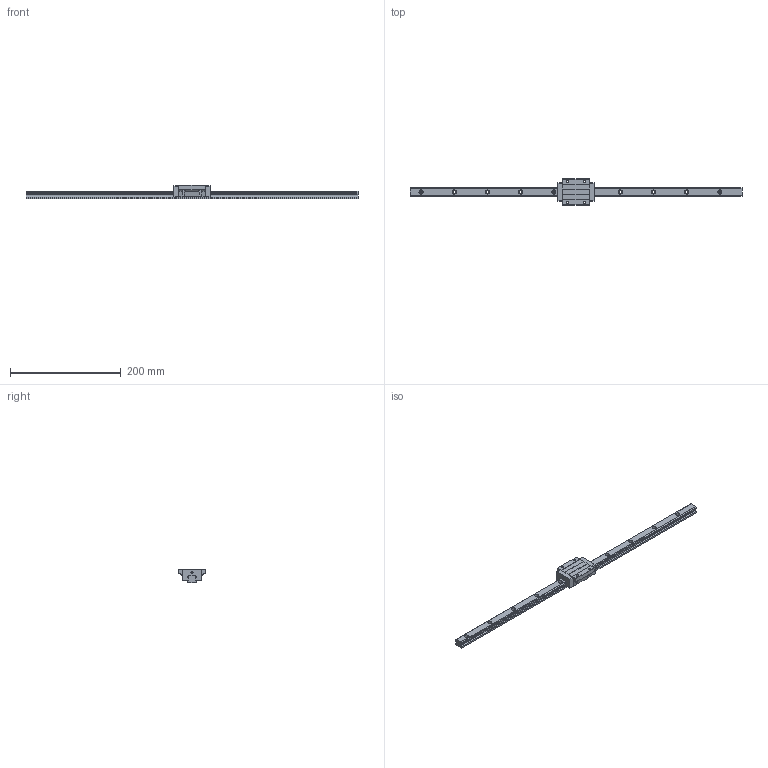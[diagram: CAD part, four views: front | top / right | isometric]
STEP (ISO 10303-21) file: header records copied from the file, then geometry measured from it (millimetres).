
FILE_DESCRIPTION (( 'STEP AP203' ), '1' );
FILE_NAME ('TRH15FL-XN-§ï.STEP', '2023-08-29T08:45:45', ( '' ), ( '' ), 'SwSTEP 2.0', 'SolidWorks 2022', '' );
FILE_SCHEMA (( 'CONFIG_CONTROL_DESIGN' ));
Length unit declared in the file: millimetre
Products named in the file (1): TRH15FL-XN-改
Bounding box: 600 x 47 x 24 mm (x, y, z)
Volume: 141618.9 mm3; surface area: 47352.5 mm2
Topology: 1 solids, 1 shells, 200 faces, 556 edges, 368 vertices
Faces by surface type: plane 102, cylinder 98
Entity records: 6873 total; most frequent: CARTESIAN_POINT 1461, DIRECTION 1130, ORIENTED_EDGE 1112, EDGE_CURVE 556, AXIS2_PLACEMENT_3D 393, VERTEX_POINT 368, LINE 344, VECTOR 344
